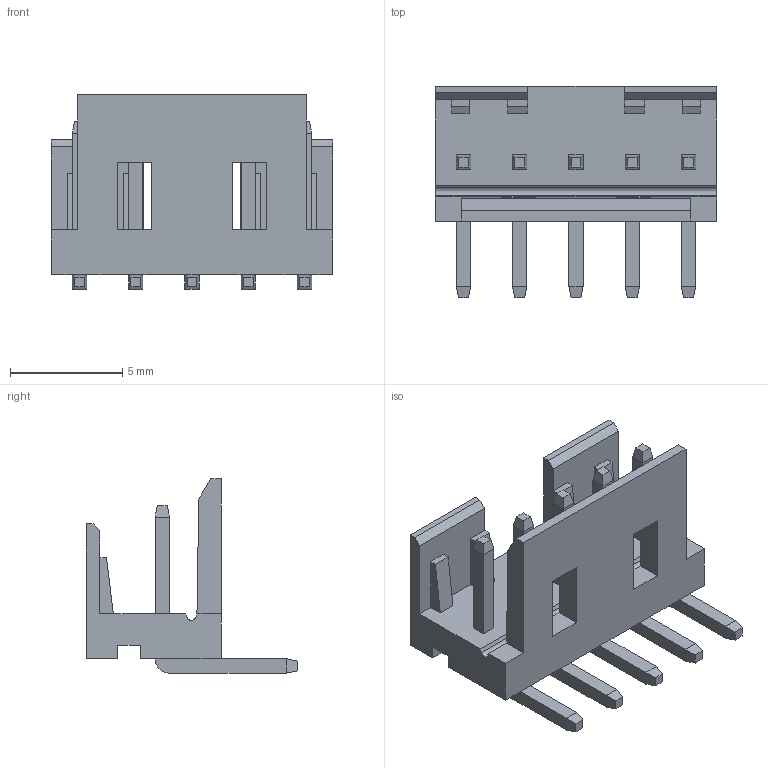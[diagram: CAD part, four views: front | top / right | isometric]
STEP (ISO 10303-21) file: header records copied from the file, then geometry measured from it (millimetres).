
FILE_DESCRIPTION(('CATIA V5 STEP Exchange'),'2;1');
FILE_NAME('F:\小黄\条形连接器\2.50系列\21--TJC9\NAW\HC-TJC9-5AW-05（2.50 单排 弯针-HCTL）.stp','2025-07-24T08:55:18+00:00',('none'),('none'),'CATIA Version 5 Release 20 GA (IN-10)','CATIA V5 STEP AP203','none');
FILE_SCHEMA(('CONFIG_CONTROL_DESIGN'));
Length unit declared in the file: millimetre
Products named in the file (1): Part2
Bounding box: 12.5 x 9.4 x 8.64 mm (x, y, z)
Volume: 237.5 mm3; surface area: 576.3 mm2
Topology: 1 solids, 1 shells, 145 faces, 386 edges, 246 vertices
Faces by surface type: plane 139, cylinder 6
Entity records: 4068 total; most frequent: ORIENTED_EDGE 772, CARTESIAN_POINT 708, DIRECTION 536, EDGE_CURVE 386, VECTOR 374, LINE 374, VERTEX_POINT 246, EDGE_LOOP 152
